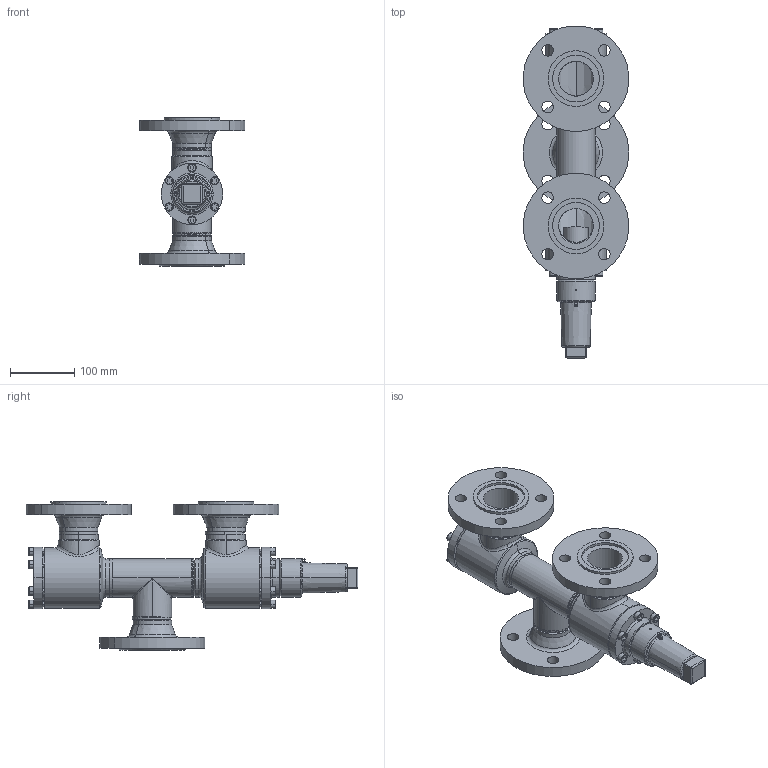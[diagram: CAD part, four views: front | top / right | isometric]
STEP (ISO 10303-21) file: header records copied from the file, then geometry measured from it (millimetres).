
FILE_DESCRIPTION (( 'STEP AP214' ), '1' );
FILE_NAME ('WVR24020D15-DN050_DIN-FL-N-F_PS40.STEP', '2010-09-08T08:52:49', ( 'Eckhard Grams' ), ( 'AWP Kälte Klima Armaturen GmbH' ), 'SwSTEP 2.0', 'SolidWorks 2002296', '' );
FILE_SCHEMA (( 'AUTOMOTIVE_DESIGN' ));
Length unit declared in the file: millimetre
Products named in the file (18): WVR24020D15-DN050_DIN-FL-N-F_PS40; Kappe 16402-15_DN40-65 (M52x3)_Standard; AVR26300E15_Deck+Schr-DN40-50_Standard; Deckel26300E15-DN40-50_Standard; Geh,kpl23020E15-DN050_DIN-FL-N-F_PS40_Standard; Geh,kpl23000E15-DN050_R1_PS40_Standard; bead23000-15-2_Standard; bead23000-15-1_Standard; T-Stück DIN2615_DN 50; Gehäuse23000E15-DN050_R1_PS40_Standard; Flansch-DIN2635-Nut_PS40_DIN-Flansch-DN050_PS40-Nut; Flansch-DIN2635-Feder_PS40_DIN-Flansch-DN050_PS40-Feder; bead23020-15-1_Standard; bead23020-15-2_Standard; bead23020-15-3_Standard; WVB-R23000E15_Deck+Schr-DN40-50_Standard; Deckel23000E15-DN40-50_Standard; Zylinderschraube-DIN912_M 8x  25
Assembly tree (30 placements, depth 4):
  WVR24020D15-DN050_DIN-FL-N-F_PS40
    Geh,kpl23020E15-DN050_DIN-FL-N-F_PS40_Standard
      Flansch-DIN2635-Nut_PS40_DIN-Flansch-DN050_PS40-Nut
      Flansch-DIN2635-Feder_PS40_DIN-Flansch-DN050_PS40-Feder  x2
      Geh,kpl23000E15-DN050_R1_PS40_Standard
        bead23000-15-2_Standard
        Gehäuse23000E15-DN050_R1_PS40_Standard  x2
        T-Stück DIN2615_DN 50
        bead23000-15-1_Standard
      bead23020-15-1_Standard
      bead23020-15-2_Standard
      bead23020-15-3_Standard
    AVR26300E15_Deck+Schr-DN40-50_Standard
      Zylinderschraube-DIN912_M 8x  25  x6
      Deckel26300E15-DN40-50_Standard
    Kappe 16402-15_DN40-65 (M52x3)_Standard
    WVB-R23000E15_Deck+Schr-DN40-50_Standard
      Zylinderschraube-DIN912_M 8x  25  x6
      Deckel23000E15-DN40-50_Standard
Bounding box: 164.37 x 518.19 x 232 mm (x, y, z)
Volume: 2198207 mm3; surface area: 494938.7 mm2
Topology: 26 solids, 26 shells, 607 faces, 1373 edges, 851 vertices
Faces by surface type: cylinder 226, plane 189, cone 101, torus 55, bspline 36
Entity records: 34862 total; most frequent: CARTESIAN_POINT 25993, DIRECTION 1710, ORIENTED_EDGE 1596, EDGE_CURVE 798, AXIS2_PLACEMENT_3D 727, VERTEX_POINT 494, EDGE_LOOP 420, CIRCLE 382
